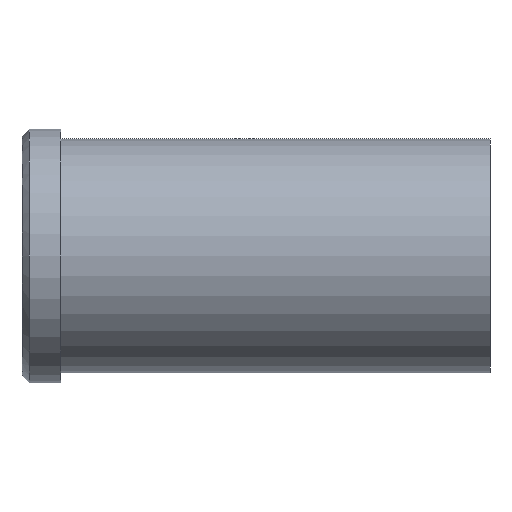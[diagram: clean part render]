
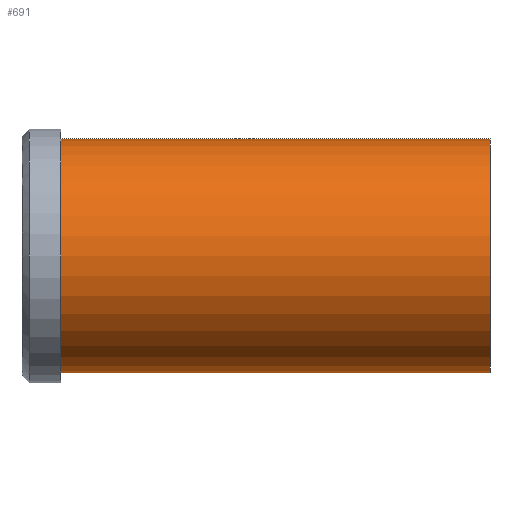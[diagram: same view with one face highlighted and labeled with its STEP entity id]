
A CAD part, front view. The second image highlights one B-rep face of the part: STEP entity #691.
In plain terms, the highlighted cylindrical face has radius 24 mm (diameter 48 mm), a partial arc.
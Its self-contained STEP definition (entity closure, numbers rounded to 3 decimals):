
#501=CARTESIAN_POINT('Vertex',(0.,0.,-24.)) ;
#506=CARTESIAN_POINT('Axis2P3D Location',(0.,0.,0.)) ;
#510=CARTESIAN_POINT('Vertex',(0.,-24.,0.)) ;
#513=CARTESIAN_POINT('Axis2P3D Location',(0.,0.,0.)) ;
#517=CARTESIAN_POINT('Vertex',(0.,0.,24.)) ;
#631=CARTESIAN_POINT('Line Origine',(88.,0.,24.)) ;
#635=CARTESIAN_POINT('Vertex',(88.,0.,24.)) ;
#649=CARTESIAN_POINT('Vertex',(88.,0.,-24.)) ;
#652=CARTESIAN_POINT('Line Origine',(88.,0.,-24.)) ;
#666=CARTESIAN_POINT('Axis2P3D Location',(88.,0.,0.)) ;
#671=CARTESIAN_POINT('Axis2P3D Location',(88.,0.,0.)) ;
#675=CARTESIAN_POINT('Vertex',(88.,-24.,0.)) ;
#678=CARTESIAN_POINT('Axis2P3D Location',(88.,0.,0.)) ;
#507=DIRECTION('Axis2P3D Direction',(1.,0.,-0.)) ;
#514=DIRECTION('Axis2P3D Direction',(1.,0.,-0.)) ;
#632=DIRECTION('Vector Direction',(-1.,0.,0.)) ;
#653=DIRECTION('Vector Direction',(-1.,0.,0.)) ;
#667=DIRECTION('Axis2P3D Direction',(-1.,-0.,-0.)) ;
#668=DIRECTION('Axis2P3D XDirection',(0.,0.,-1.)) ;
#672=DIRECTION('Axis2P3D Direction',(-1.,-0.,-0.)) ;
#679=DIRECTION('Axis2P3D Direction',(-1.,-0.,-0.)) ;
#508=AXIS2_PLACEMENT_3D('Circle Axis2P3D',#506,#507,$) ;
#515=AXIS2_PLACEMENT_3D('Circle Axis2P3D',#513,#514,$) ;
#669=AXIS2_PLACEMENT_3D('Cylinder Axis2P3D',#666,#667,#668) ;
#673=AXIS2_PLACEMENT_3D('Circle Axis2P3D',#671,#672,$) ;
#680=AXIS2_PLACEMENT_3D('Circle Axis2P3D',#678,#679,$) ;
#684=ORIENTED_EDGE('',*,*,#656,.T.) ;
#685=ORIENTED_EDGE('',*,*,#677,.F.) ;
#686=ORIENTED_EDGE('',*,*,#682,.F.) ;
#687=ORIENTED_EDGE('',*,*,#637,.T.) ;
#688=ORIENTED_EDGE('',*,*,#519,.T.) ;
#689=ORIENTED_EDGE('',*,*,#512,.T.) ;
#633=VECTOR('Line Direction',#632,1.) ;
#654=VECTOR('Line Direction',#653,1.) ;
#691=ADVANCED_FACE('353-40X96',(#690),#670,.T.) ;
#509=CIRCLE('generated circle',#508,24.) ;
#516=CIRCLE('generated circle',#515,24.) ;
#674=CIRCLE('generated circle',#673,24.) ;
#681=CIRCLE('generated circle',#680,24.) ;
#670=CYLINDRICAL_SURFACE('generated cylinder',#669,24.) ;
#512=EDGE_CURVE('',#511,#502,#509,.T.) ;
#519=EDGE_CURVE('',#518,#511,#516,.T.) ;
#637=EDGE_CURVE('',#636,#518,#634,.T.) ;
#656=EDGE_CURVE('',#502,#650,#655,.F.) ;
#677=EDGE_CURVE('',#676,#650,#674,.F.) ;
#682=EDGE_CURVE('',#636,#676,#681,.F.) ;
#683=EDGE_LOOP('',(#684,#685,#686,#687,#688,#689)) ;
#690=FACE_OUTER_BOUND('',#683,.T.) ;
#634=LINE('Line',#631,#633) ;
#655=LINE('Line',#652,#654) ;
#502=VERTEX_POINT('',#501) ;
#511=VERTEX_POINT('',#510) ;
#518=VERTEX_POINT('',#517) ;
#636=VERTEX_POINT('',#635) ;
#650=VERTEX_POINT('',#649) ;
#676=VERTEX_POINT('',#675) ;
